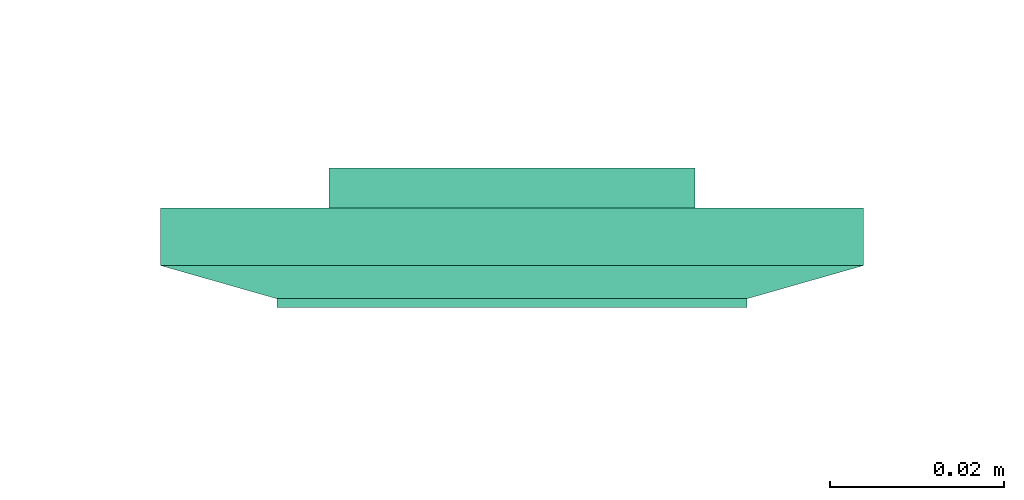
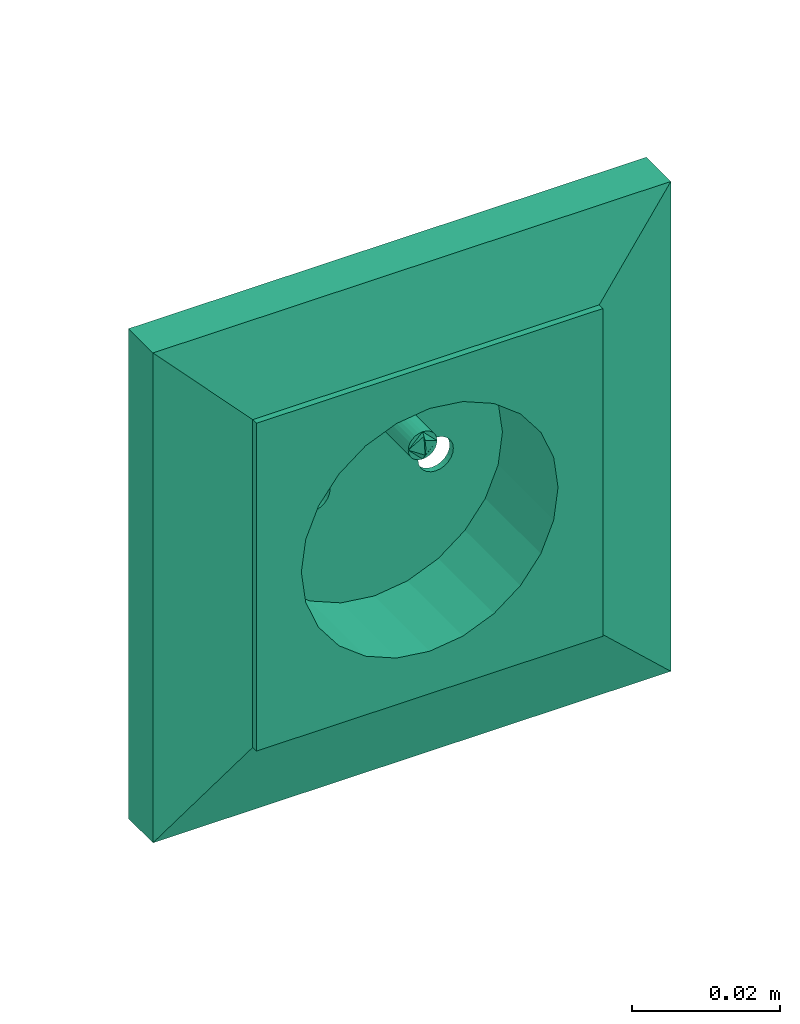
# One storey, part 137 of 146: 1 flow terminal.
"""IFC2X3 building model written with IfcOpenShell, lengths in metres."""

import ifcopenshell
import ifcopenshell.guid

model = None  # the IFC model being written
_history = None  # IfcOwnerHistory: only IFC2X3 demands one
_inside = {}  # id of a spatial element -> (the spatial element, [elements in it])
_under = {}  # id of a project, library or spatial element -> (it, [spatial elements below it])
_declared = {}  # id of a project -> (the project, [libraries it declares])
_typed = {}  # id of a type object -> (the type object, [elements of that type])
_made_of = {}  # id of a material, layer set ... -> (it, [elements and type objects made of it])


def new_model(schema):
    """Start an empty IFC model of exactly this schema.

    Asked for "IFC4X3", IfcOpenShell would pick the latest addendum, in which some entities
    have other attributes; the version numbers below select the first issue.
    IFC2X3 requires an IfcOwnerHistory on every rooted entity: one is made here for all.
    """
    global model, _history
    if schema == "IFC4X3":
        model = ifcopenshell.file(schema_version=(4, 3, 0, 0))
    else:
        model = ifcopenshell.file(schema=schema)
    _inside.clear()
    _under.clear()
    _declared.clear()
    _typed.clear()
    _made_of.clear()
    _history = None
    if model.schema == "IFC2X3":
        org = make("IfcOrganization", Name="unknown")
        user = make(
            "IfcPersonAndOrganization",
            ThePerson=make("IfcPerson", FamilyName="unknown"),
            TheOrganization=org,
        )
        app = make(
            "IfcApplication",
            ApplicationDeveloper=org,
            Version="unknown",
            ApplicationFullName="unknown",
            ApplicationIdentifier="unknown",
        )
        _history = make(
            "IfcOwnerHistory",
            OwningUser=user,
            OwningApplication=app,
            ChangeAction="ADDED",
            CreationDate=0,
        )
    return model


def make(cls, **values):
    """One entity of the class cls with the attributes given. An attribute that is None is left unset."""
    return model.create_entity(
        cls, **{name: value for name, value in values.items() if value is not None}
    )


def entity(cls, *values):
    """Any entity or typed value of the class cls, its attributes in the order of the schema. None: left unset."""
    e = model.create_entity(cls)
    for i, value in enumerate(values):
        if value is not None:
            e[i] = value
    return e


def rooted(cls, **values):
    """An entity with a GlobalId (a new one), such as an element, a storey or a relation."""
    return make(cls, GlobalId=ifcopenshell.guid.new(), OwnerHistory=_history, **values)


def si_unit(unit_type, name, prefix=None):
    """IfcSIUnit, for example si_unit("LENGTHUNIT", "METRE", prefix="MILLI")."""
    return make("IfcSIUnit", UnitType=unit_type, Prefix=prefix, Name=name)


def converted_unit(unit_type, name, factor, base, dimensions=None, offset=None):
    """IfcConversionBasedUnit, such as the inch: factor (a typed value) times the base unit."""
    return make(
        "IfcConversionBasedUnit"
        if offset is None
        else "IfcConversionBasedUnitWithOffset",
        ConversionOffset=offset,
        Dimensions=None
        if dimensions is None
        else entity("IfcDimensionalExponents", *dimensions),
        UnitType=unit_type,
        Name=name,
        ConversionFactor=make(
            "IfcMeasureWithUnit", ValueComponent=factor, UnitComponent=base
        ),
    )


def derived_unit(unit_type, elements):
    """IfcDerivedUnit: a product of units, each with its exponent."""
    return make(
        "IfcDerivedUnit",
        Elements=[
            make("IfcDerivedUnitElement", Unit=unit, Exponent=power)
            for unit, power in elements
        ],
        UnitType=unit_type,
    )


def assignment(units):
    """IfcUnitAssignment: the units of a project."""
    return None if units is None else make("IfcUnitAssignment", Units=units)


def point(xyz):
    """IfcCartesianPoint."""
    return None if xyz is None else make("IfcCartesianPoint", Coordinates=xyz)


def direction(xyz):
    """IfcDirection."""
    return None if xyz is None else make("IfcDirection", DirectionRatios=xyz)


def frame(location, z_axis=None, x_axis=None):
    """IfcAxis2Placement3D, a coordinate frame: its origin and axes. An axis left out is left unset."""
    return make(
        "IfcAxis2Placement3D",
        Location=point(location),
        Axis=direction(z_axis),
        RefDirection=direction(x_axis),
    )


def origin():
    """The frame at (0, 0, 0) with its axes left unset."""
    return frame((0.0, 0.0, 0.0))


def place(relative_to, where):
    """IfcLocalPlacement: puts the frame where relative to a parent placement (None: the world)."""
    return make(
        "IfcLocalPlacement", PlacementRelTo=relative_to, RelativePlacement=where
    )


def context(
    kind, dimensions, precision=None, world=None, true_north=None, identifier=None
):
    """IfcGeometricRepresentationContext, for example the 3D "Model" context."""
    return make(
        "IfcGeometricRepresentationContext",
        ContextIdentifier=identifier,
        ContextType=kind,
        CoordinateSpaceDimension=dimensions,
        Precision=precision,
        WorldCoordinateSystem=world,
        TrueNorth=true_north,
    )


def subcontext(parent, identifier, kind, view, scale=None):
    """IfcGeometricRepresentationSubContext, for example "Body" below "Model"."""
    return make(
        "IfcGeometricRepresentationSubContext",
        ContextIdentifier=identifier,
        ContextType=kind,
        ParentContext=parent,
        TargetScale=scale,
        TargetView=view,
    )


def project(units=None, contexts=None):
    """IfcProject with its units and contexts."""
    return rooted(
        "IfcProject",
        Name="project",
        RepresentationContexts=contexts,
        UnitsInContext=assignment(units),
    )


def spatial(cls, under=None, at=None, **own):
    """A site, building, storey or space (cls), placed at a placement, below another one or the project."""
    s = rooted(cls, ObjectPlacement=at, **own)
    if under is not None:
        _under.setdefault(under.id(), (under, []))[1].append(s)
    return s


def faces_of(points, faces, orient=None, outer=None):
    """IfcFace entities. A face is a list of loops; a loop is a list of indices into points, from 0.

    orient and outer hold one flag for each loop. By default every Orientation is true, the
    first loop of a face is its IfcFaceOuterBound and the others are IfcFaceBound.
    """
    made = []
    for i, loops in enumerate(faces):
        bounds = []
        for j, loop in enumerate(loops):
            is_outer = j == 0 if outer is None else outer[i][j]
            bounds.append(
                make(
                    "IfcFaceOuterBound" if is_outer else "IfcFaceBound",
                    Bound=make("IfcPolyLoop", Polygon=[points[k] for k in loop]),
                    Orientation=True if orient is None else orient[i][j],
                )
            )
        made.append(make("IfcFace", Bounds=bounds))
    return made


def face_set(faces, orient=None, outer=None):
    """The faces of one IfcConnectedFaceSet. surface_model builds it on its shared points."""
    return ("IfcConnectedFaceSet", faces, orient, outer)


def surface_model(cls, points, shells):
    """IfcFaceBasedSurfaceModel or IfcShellBasedSurfaceModel (cls): surfaces that need not close."""
    shared = [point(p) for p in points]
    made = [make(c, CfsFaces=faces_of(shared, fs, o, b)) for c, fs, o, b in shells]
    if cls == "IfcFaceBasedSurfaceModel":
        return make(cls, FbsmFaces=made)
    return make(cls, SbsmBoundary=made)


def shape(context_of_items, identifier, shape_type, items):
    """IfcShapeRepresentation: the items that make up one representation, for example the "Body"."""
    return make(
        "IfcShapeRepresentation",
        ContextOfItems=context_of_items,
        RepresentationIdentifier=identifier,
        RepresentationType=shape_type,
        Items=items,
    )


def source(mapping_origin, context_of_items, identifier, shape_type, items):
    """IfcRepresentationMap: a shape defined once, which mapped items show again and again."""
    return make(
        "IfcRepresentationMap",
        MappingOrigin=mapping_origin,
        MappedRepresentation=shape(context_of_items, identifier, shape_type, items),
    )


def transform(
    local_origin,
    x_axis=None,
    y_axis=None,
    z_axis=None,
    scale=None,
    scale2=None,
    scale3=None,
    uniform=True,
):
    """IfcCartesianTransformationOperator3D, or its non-uniform kind. x_axis, y_axis, z_axis: its Axis1, 2, 3."""
    if uniform:
        return make(
            "IfcCartesianTransformationOperator3D",
            Axis1=direction(x_axis),
            Axis2=direction(y_axis),
            LocalOrigin=point(local_origin),
            Scale=scale,
            Axis3=direction(z_axis),
        )
    return make(
        "IfcCartesianTransformationOperator3DnonUniform",
        Axis1=direction(x_axis),
        Axis2=direction(y_axis),
        LocalOrigin=point(local_origin),
        Scale=scale,
        Axis3=direction(z_axis),
        Scale2=scale2,
        Scale3=scale3,
    )


def mapped(mapping_source, mapping_target):
    """IfcMappedItem: shows the shape of a source again, moved by a transform."""
    return make(
        "IfcMappedItem", MappingSource=mapping_source, MappingTarget=mapping_target
    )


def made_of(thing, what):
    """Note that an element or type object is made of a material, layer set ...; save() writes the relation."""
    if what is not None:
        _made_of.setdefault(what.id(), (what, []))[1].append(thing)
    return thing


def type_object(cls, material=None, **own):
    """A type object (cls), such as IfcWallType, which elements share."""
    return made_of(rooted(cls, **own), material)


def type_shapes(of_type, sources):
    """Give a type object the sources (RepresentationMaps) that its elements show as mapped items."""
    of_type.RepresentationMaps = sources


def element(
    cls,
    number,
    at=None,
    inside=None,
    cuts=None,
    type_object=None,
    material=None,
    context=None,
    identifier="Body",
    shape_type=None,
    held_by="IfcProductDefinitionShape",
    body=None,
    shapes=None,
    **own,
):
    """One element of the class cls, such as IfcWall. Its Tag is "e" and its number.

    at: its placement. inside: the storey or other place that contains it. cuts: it is an
    opening in that element (IfcRelVoidsElement). A single representation is given by context,
    identifier, shape_type and body (its items); several are given by shapes. held_by: the class
    of the entity that holds the representations. save() writes the other relations.
    """
    e = rooted(cls, Tag="e%d" % number, ObjectPlacement=at, **own)
    if body is not None:
        shapes = [shape(context, identifier, shape_type, body)]
    if shapes is not None:
        e.Representation = make(held_by, Representations=shapes)
    if inside is not None:
        _inside.setdefault(inside.id(), (inside, []))[1].append(e)
    if cuts is not None:
        rooted(
            "IfcRelVoidsElement", RelatingBuildingElement=cuts, RelatedOpeningElement=e
        )
    if type_object is not None:
        _typed.setdefault(type_object.id(), (type_object, []))[1].append(e)
    return made_of(e, material)


def aggregate(whole, parts):
    """IfcRelAggregates: a whole, such as a stair, and the parts it consists of."""
    return rooted("IfcRelAggregates", RelatingObject=whole, RelatedObjects=parts)


def save(model, path):
    """Write the relations noted so far, then the file.

    IfcRelAggregates (storeys below a building ...), IfcRelContainedInSpatialStructure (elements
    in a storey), IfcRelDefinesByType, IfcRelAssociatesMaterial and IfcRelDeclares: one each for
    every whole, place, type object, material and project.
    """
    for whole, parts in _under.values():
        aggregate(whole, parts)
    for where, things in _inside.values():
        rooted(
            "IfcRelContainedInSpatialStructure",
            RelatedElements=things,
            RelatingStructure=where,
        )
    for kind, things in _typed.values():
        rooted("IfcRelDefinesByType", RelatedObjects=things, RelatingType=kind)
    for what, things in _made_of.values():
        rooted("IfcRelAssociatesMaterial", RelatedObjects=things, RelatingMaterial=what)
    for by, libraries in _declared.values():
        rooted("IfcRelDeclares", RelatingContext=by, RelatedDefinitions=libraries)
    model.write(path)


model = new_model("IFC2X3")

# Units and contexts
model_context = context("Model", 3, precision=1e-05, world=origin(), true_north=direction((6.12303176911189e-17, 1.0)))
body_context = subcontext(model_context, "Body", "Model", "MODEL_VIEW")
ifc_project = project(units=[si_unit("LENGTHUNIT", "METRE"), si_unit("AREAUNIT", "SQUARE_METRE"), si_unit("VOLUMEUNIT", "CUBIC_METRE"), converted_unit("PLANEANGLEUNIT", "DEGREE", entity("IfcRatioMeasure", 0.0174532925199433), si_unit("PLANEANGLEUNIT", "RADIAN"), dimensions=[0, 0, 0, 0, 0, 0, 0]), si_unit("MASSUNIT", "GRAM", prefix="KILO"), derived_unit("MASSDENSITYUNIT", [(si_unit("MASSUNIT", "GRAM", prefix="KILO"), 1), (si_unit("LENGTHUNIT", "METRE"), -3)]), si_unit("TIMEUNIT", "SECOND"), si_unit("FREQUENCYUNIT", "HERTZ"), si_unit("THERMODYNAMICTEMPERATUREUNIT", "DEGREE_CELSIUS"), derived_unit("THERMALTRANSMITTANCEUNIT", [(si_unit("MASSUNIT", "GRAM", prefix="KILO"), 1), (si_unit("THERMODYNAMICTEMPERATUREUNIT", "KELVIN"), -1), (si_unit("TIMEUNIT", "SECOND"), -3)]), derived_unit("VOLUMETRICFLOWRATEUNIT", [(si_unit("LENGTHUNIT", "METRE"), 3), (si_unit("TIMEUNIT", "SECOND"), -1)]), si_unit("ELECTRICCURRENTUNIT", "AMPERE"), si_unit("ELECTRICVOLTAGEUNIT", "VOLT"), si_unit("POWERUNIT", "WATT"), si_unit("FORCEUNIT", "NEWTON"), si_unit("ILLUMINANCEUNIT", "LUX"), si_unit("LUMINOUSFLUXUNIT", "LUMEN"), si_unit("LUMINOUSINTENSITYUNIT", "CANDELA"), derived_unit("USERDEFINED", [(si_unit("MASSUNIT", "GRAM", prefix="KILO"), -1), (si_unit("LENGTHUNIT", "METRE"), -2), (si_unit("TIMEUNIT", "SECOND"), 3), (si_unit("LUMINOUSFLUXUNIT", "LUMEN"), 1)]), derived_unit("LINEARVELOCITYUNIT", [(si_unit("LENGTHUNIT", "METRE"), 1), (si_unit("TIMEUNIT", "SECOND"), -1)]), si_unit("PRESSUREUNIT", "PASCAL"), derived_unit("USERDEFINED", [(si_unit("LENGTHUNIT", "METRE"), -2), (si_unit("MASSUNIT", "GRAM", prefix="KILO"), 1), (si_unit("TIMEUNIT", "SECOND"), -2)])], contexts=[model_context])

# Site, building, storey
site_placement = place(None, origin())
site = spatial("IfcSite", under=ifc_project, at=site_placement, Name="Default", CompositionType="ELEMENT")
building_placement = place(site_placement, origin())
building = spatial("IfcBuilding", under=site, at=building_placement, CompositionType="ELEMENT")
storey_placement = place(building_placement, origin())
storey = spatial("IfcBuildingStorey", under=building, at=storey_placement, Name="S01", CompositionType="ELEMENT", Elevation=0.0)

# Flow terminal
light_fixture_type = type_object("IfcLightFixtureType", Name="IP20 ONDULEE", PredefinedType="NOTDEFINED")
shared_shape = source(origin(), body_context, "Body", "SurfaceModel", [
    surface_model("IfcFaceBasedSurfaceModel", [(-0.00225000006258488, 0.0127499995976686, 0.00949633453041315), (0.0, 0.0104999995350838, 0.00949633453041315), (0.0, 0.0115376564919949, 0.0101656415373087), (0.0, 0.0139623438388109, 0.0101656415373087), (0.0, 0.0144589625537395, 0.00984531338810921), (0.0, 0.0121178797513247, 0.0102778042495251), (0.0, 0.0133821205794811, 0.0102778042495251), (0.0, 0.0127499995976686, 0.010399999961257), (0.0, 0.0149999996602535, 0.00949633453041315), (0.00225000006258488, 0.0127499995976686, 0.00949633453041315), (0.0, 0.0110410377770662, 0.00984531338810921), (0.0, 0.0127499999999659, 0.00949633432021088), (0.00225000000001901, 0.0127499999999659, 0.00949633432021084), (0.00217333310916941, 0.0121676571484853, 0.00949633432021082), (0.00194855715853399, 0.0116249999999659, 0.00949633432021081), (0.00159099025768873, 0.0111590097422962, 0.00949633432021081), (0.001125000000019, 0.010801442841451, 0.00949633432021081), (0.00058234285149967, 0.0105766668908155, 0.00949633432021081), (0.0, 0.0104999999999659, 0.00949633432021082), (-0.000582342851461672, 0.0105766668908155, 0.00949633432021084), (-0.001124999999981, 0.010801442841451, 0.00949633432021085), (-0.00159099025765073, 0.0111590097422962, 0.00949633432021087), (-0.00194855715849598, 0.011624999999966, 0.00949633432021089), (-0.0021733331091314, 0.0121676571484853, 0.00949633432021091), (-0.00224999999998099, 0.012749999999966, 0.00949633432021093), (-0.00217333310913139, 0.0133323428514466, 0.00949633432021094), (-0.00194855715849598, 0.013874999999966, 0.00949633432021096), (-0.00159099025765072, 0.0143409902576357, 0.00949633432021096), (-0.00112499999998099, 0.0146985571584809, 0.00949633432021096), (-0.00058234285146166, 0.0149233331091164, 0.00949633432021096), (0.0, 0.0149999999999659, 0.00949633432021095), (0.000582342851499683, 0.0149233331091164, 0.00949633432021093), (0.00112500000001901, 0.0146985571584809, 0.00949633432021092), (0.00159099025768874, 0.0143409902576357, 0.00949633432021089), (0.001948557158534, 0.0138749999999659, 0.00949633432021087), (0.00217333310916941, 0.0133323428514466, 0.00949633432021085), (0.00225000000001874, 0.0127499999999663, -0.00360000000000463), (0.00217333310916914, 0.0121676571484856, -0.00360000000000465), (0.00194855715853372, 0.0116249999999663, -0.00360000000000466), (0.00159099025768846, 0.0111590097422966, -0.00360000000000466), (0.00112500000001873, 0.0108014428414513, -0.00360000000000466), (0.000582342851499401, 0.0105766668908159, -0.00360000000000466), (0.0, 0.0104999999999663, -0.00360000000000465), (-0.000582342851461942, 0.0105766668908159, -0.00360000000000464), (-0.00112499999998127, 0.0108014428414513, -0.00360000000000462), (-0.001590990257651, 0.0111590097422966, -0.0036000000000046), (-0.00194855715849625, 0.0116249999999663, -0.00360000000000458), (-0.00217333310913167, 0.0121676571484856, -0.00360000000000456), (-0.00224999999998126, 0.0127499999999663, -0.00360000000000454), (-0.00217333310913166, 0.013332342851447, -0.00360000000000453), (-0.00194855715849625, 0.0138749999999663, -0.00360000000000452), (-0.00159099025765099, 0.014340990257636, -0.00360000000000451), (-0.00112499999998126, 0.0146985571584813, -0.00360000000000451), (-0.000582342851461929, 0.0149233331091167, -0.00360000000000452), (0.0, 0.0149999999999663, -0.00360000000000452), (0.000582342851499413, 0.0149233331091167, -0.00360000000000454), (0.00112500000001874, 0.0146985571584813, -0.00360000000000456), (0.00159099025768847, 0.014340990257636, -0.00360000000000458), (0.00194855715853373, 0.0138749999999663, -0.0036000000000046), (0.00217333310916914, 0.013332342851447, -0.00360000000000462), (0.0270000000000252, 0.026999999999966, 0.0113999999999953), (-0.0269999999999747, 0.026999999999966, 0.0113999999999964), (-0.0269999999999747, -0.0270000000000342, 0.0113999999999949), (0.0270000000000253, -0.0270000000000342, 0.0113999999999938), (-0.0199999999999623, 0.0, 0.0113999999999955), (-0.0193185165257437, -0.00517638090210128, 0.0113999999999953), (-0.0173205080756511, -0.0100000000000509, 0.0113999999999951), (-0.0141421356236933, -0.0141421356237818, 0.011399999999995), (-0.00999999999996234, -0.0173205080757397, 0.0113999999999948), (-0.00517638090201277, -0.0193185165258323, 0.0113999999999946), (0.0, -0.0200000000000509, 0.0113999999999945), (0.00517638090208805, -0.0193185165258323, 0.0113999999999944), (0.0100000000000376, -0.0173205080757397, 0.0113999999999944), (0.0141421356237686, -0.0141421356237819, 0.0113999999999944), (0.0173205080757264, -0.010000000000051, 0.0113999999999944), (0.0193185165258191, -0.00517638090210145, 0.0113999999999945), (0.0200000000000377, 0.0, 0.0113999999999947), (0.0193185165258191, 0.00517638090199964, 0.0113999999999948), (0.0173205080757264, 0.0099999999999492, 0.011399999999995), (0.0141421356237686, 0.0141421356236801, 0.0113999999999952), (0.0100000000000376, 0.0173205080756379, 0.0113999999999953), (0.00517638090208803, 0.0193185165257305, 0.0113999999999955), (0.0, 0.0199999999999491, 0.0113999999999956), (-0.00517638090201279, 0.0193185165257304, 0.0113999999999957), (-0.00999999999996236, 0.0173205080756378, 0.0113999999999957), (-0.0141421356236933, 0.01414213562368, 0.0113999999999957), (-0.0173205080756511, 0.00999999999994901, 0.0113999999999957), (-0.0193185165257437, 0.00517638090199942, 0.0113999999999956), (0.0270000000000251, 0.0269999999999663, 0.00199999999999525), (0.0270000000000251, -0.0270000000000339, 0.00199999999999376), (-0.0269999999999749, -0.0270000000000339, 0.00199999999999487), (-0.0269999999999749, 0.0269999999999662, 0.00199999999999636), (0.0210000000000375, 0.0, 0.00199999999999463), (0.0202844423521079, -0.00543519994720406, 0.00199999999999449), (0.0181865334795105, -0.0105000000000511, 0.0019999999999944), (0.0148492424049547, -0.0148492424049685, 0.00199999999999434), (0.0105000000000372, -0.0181865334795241, 0.00199999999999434), (0.0054351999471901, -0.0202844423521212, 0.00199999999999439), (0.0, -0.0210000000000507, 0.00199999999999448), (-0.00543519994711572, -0.020284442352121, 0.00199999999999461), (-0.0104999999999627, -0.0181865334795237, 0.00199999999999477), (-0.0148492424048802, -0.014849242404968, 0.00199999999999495), (-0.0181865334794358, -0.0105000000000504, 0.00199999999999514), (-0.020284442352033, -0.00543519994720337, 0.00199999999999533), (-0.0209999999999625, 0.0, 0.00199999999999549), (-0.0202844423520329, 0.0054351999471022, 0.00199999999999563), (-0.0181865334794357, 0.0104999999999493, 0.00199999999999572), (-0.01484924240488, 0.0148492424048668, 0.00199999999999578), (-0.0104999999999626, 0.0181865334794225, 0.00199999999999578), (-0.00543519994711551, 0.0202844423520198, 0.00199999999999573), (0.0, 0.0209999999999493, 0.00199999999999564), (0.00543519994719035, 0.0202844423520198, 0.00199999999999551), (0.0105000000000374, 0.0181865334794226, 0.00199999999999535), (0.0148492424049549, 0.0148492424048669, 0.00199999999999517), (0.0181865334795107, 0.0104999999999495, 0.00199999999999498), (0.0202844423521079, 0.00543519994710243, 0.00199999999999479), (0.0200000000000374, 0.0, -0.00360000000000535), (0.0193185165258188, -0.00517638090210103, -0.00360000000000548), (0.0173205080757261, -0.0100000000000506, -0.00360000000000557), (0.0141421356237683, -0.0141421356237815, -0.00360000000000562), (0.0100000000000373, -0.0173205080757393, -0.00360000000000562), (0.00517638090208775, -0.0193185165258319, -0.00360000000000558), (0.0, -0.0200000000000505, -0.00360000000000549), (-0.00517638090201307, -0.0193185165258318, -0.00360000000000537), (-0.00999999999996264, -0.0173205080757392, -0.00360000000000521), (-0.0141421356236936, -0.0141421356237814, -0.00360000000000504), (-0.0173205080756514, -0.0100000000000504, -0.00360000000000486), (-0.019318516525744, -0.00517638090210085, -0.00360000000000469), (-0.0199999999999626, 0.0, -0.00360000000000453), (-0.0193185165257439, 0.00517638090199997, -0.0036000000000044), (-0.0173205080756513, 0.00999999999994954, -0.00360000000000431), (-0.0141421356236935, 0.0141421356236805, -0.00360000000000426), (-0.00999999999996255, 0.0173205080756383, -0.00360000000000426), (-0.00517638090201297, 0.0193185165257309, -0.0036000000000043), (0.0, 0.0199999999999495, -0.00360000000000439), (0.00517638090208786, 0.0193185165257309, -0.00360000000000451), (0.0100000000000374, 0.0173205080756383, -0.00360000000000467), (0.0141421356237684, 0.0141421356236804, -0.00360000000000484), (0.0173205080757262, 0.0099999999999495, -0.00360000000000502), (0.0193185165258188, 0.00517638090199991, -0.00360000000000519), (-0.0123499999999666, 0.0, -0.00360000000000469), (-0.0122562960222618, -0.000711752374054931, -0.00360000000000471), (-0.0119815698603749, -0.00137500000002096, -0.00360000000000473), (-0.0115445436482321, -0.00194454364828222, -0.00360000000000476), (-0.0109749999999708, -0.00238156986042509, -0.00360000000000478), (-0.0103117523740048, -0.00265629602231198, -0.0036000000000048), (-0.00959999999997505, -0.00275000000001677, -0.00360000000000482), (-0.0088882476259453, -0.00265629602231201, -0.00360000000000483), (-0.00822499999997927, -0.00238156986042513, -0.00360000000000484), (-0.00765545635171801, -0.00194454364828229, -0.00360000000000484), (-0.00721843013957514, -0.00137500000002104, -0.00360000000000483), (-0.00694370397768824, -0.000711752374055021, -0.00360000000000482), (-0.00684999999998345, 0.0, -0.0036000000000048), (-0.00694370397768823, 0.000711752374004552, -0.00360000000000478), (-0.00721843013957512, 0.00137499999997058, -0.00360000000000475), (-0.00765545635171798, 0.00194454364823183, -0.00360000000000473), (-0.00822499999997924, 0.00238156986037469, -0.0036000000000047), (-0.00888824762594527, 0.00265629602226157, -0.00360000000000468), (-0.00959999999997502, 0.00274999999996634, -0.00360000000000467), (-0.0103117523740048, 0.00265629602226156, -0.00360000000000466), (-0.0109749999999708, 0.00238156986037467, -0.00360000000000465), (-0.011544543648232, 0.00194454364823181, -0.00360000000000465), (-0.0119815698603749, 0.00137499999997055, -0.00360000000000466), (-0.0122562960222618, 0.000711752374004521, -0.00360000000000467), (0.00685000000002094, 0.0, -0.00360000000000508), (0.0069437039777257, -0.00071175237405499, -0.0036000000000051), (0.00721843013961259, -0.00137500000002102, -0.00360000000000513), (0.00765545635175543, -0.00194454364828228, -0.00360000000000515), (0.00822500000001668, -0.00238156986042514, -0.00360000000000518), (0.00888824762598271, -0.00265629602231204, -0.0036000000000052), (0.00960000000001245, -0.00275000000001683, -0.00360000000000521), (0.0103117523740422, -0.00265629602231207, -0.00360000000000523), (0.0109750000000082, -0.00238156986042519, -0.00360000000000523), (0.0115445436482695, -0.00194454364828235, -0.00360000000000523), (0.0119815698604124, -0.0013750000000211, -0.00360000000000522), (0.0122562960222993, -0.00071175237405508, -0.00360000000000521), (0.012350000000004, 0.0, -0.00360000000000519), (0.0122562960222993, 0.000711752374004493, -0.00360000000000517), (0.0119815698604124, 0.00137499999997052, -0.00360000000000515), (0.0115445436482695, 0.00194454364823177, -0.00360000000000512), (0.0109750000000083, 0.00238156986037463, -0.0036000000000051), (0.0103117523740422, 0.00265629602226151, -0.00360000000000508), (0.00960000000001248, 0.00274999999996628, -0.00360000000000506), (0.00888824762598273, 0.0026562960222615, -0.00360000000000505), (0.0082250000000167, 0.00238156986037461, -0.00360000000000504), (0.00765545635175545, 0.00194454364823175, -0.00360000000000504), (0.0072184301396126, 0.00137499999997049, -0.00360000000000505), (0.00694370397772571, 0.000711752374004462, -0.00360000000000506), (0.0210000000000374, 0.0, -0.00460000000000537), (0.0202844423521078, -0.00543519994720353, -0.00460000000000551), (0.0181865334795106, -0.0105000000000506, -0.0046000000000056), (0.0148492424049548, -0.0148492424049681, -0.00460000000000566), (0.0105000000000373, -0.0181865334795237, -0.00460000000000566), (0.00543519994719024, -0.0202844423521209, -0.00460000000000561), (0.0, -0.0210000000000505, -0.00460000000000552), (-0.00543519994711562, -0.0202844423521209, -0.00460000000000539), (-0.0104999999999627, -0.0181865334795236, -0.00460000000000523), (-0.0148492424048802, -0.0148492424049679, -0.00460000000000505), (-0.0181865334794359, -0.0105000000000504, -0.00460000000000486), (-0.0202844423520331, -0.00543519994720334, -0.00460000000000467), (-0.0209999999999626, 0.0, -0.00460000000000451), (-0.020284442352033, 0.00543519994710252, -0.00460000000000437), (-0.0181865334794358, 0.0104999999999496, -0.00460000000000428), (-0.0148492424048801, 0.0148492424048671, -0.00460000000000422), (-0.0104999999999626, 0.0181865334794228, -0.00460000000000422), (-0.00543519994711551, 0.02028444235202, -0.00460000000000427), (0.0, 0.0209999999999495, -0.00460000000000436), (0.00543519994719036, 0.02028444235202, -0.00460000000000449), (0.0105000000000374, 0.0181865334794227, -0.00460000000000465), (0.0148492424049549, 0.014849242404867, -0.00460000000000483), (0.0181865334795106, 0.0104999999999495, -0.00460000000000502), (0.0202844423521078, 0.00543519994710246, -0.00460000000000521), (-0.00684999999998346, 0.0, -0.0046000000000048), (-0.00694370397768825, 0.000711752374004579, -0.00460000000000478), (-0.00721843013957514, 0.00137499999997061, -0.00460000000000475), (-0.007655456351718, 0.00194454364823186, -0.00460000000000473), (-0.00822499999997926, 0.00238156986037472, -0.0046000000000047), (-0.00888824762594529, 0.0026562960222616, -0.00460000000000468), (-0.00959999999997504, 0.00274999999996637, -0.00460000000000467), (-0.0103117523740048, 0.00265629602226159, -0.00460000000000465), (-0.0109749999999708, 0.0023815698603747, -0.00460000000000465), (-0.0115445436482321, 0.00194454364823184, -0.00460000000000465), (-0.0119815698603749, 0.00137499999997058, -0.00460000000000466), (-0.0122562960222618, 0.000711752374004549, -0.00460000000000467), (-0.0123499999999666, 0.0, -0.00460000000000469), (-0.0122562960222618, -0.000711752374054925, -0.00460000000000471), (-0.0119815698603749, -0.00137500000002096, -0.00460000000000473), (-0.0115445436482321, -0.00194454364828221, -0.00460000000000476), (-0.0109749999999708, -0.00238156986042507, -0.00460000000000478), (-0.0103117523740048, -0.00265629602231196, -0.0046000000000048), (-0.00959999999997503, -0.00275000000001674, -0.00460000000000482), (-0.00888824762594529, -0.00265629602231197, -0.00460000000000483), (-0.00822499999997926, -0.00238156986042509, -0.00460000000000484), (-0.007655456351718, -0.00194454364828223, -0.00460000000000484), (-0.00721843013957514, -0.00137500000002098, -0.00460000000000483), (-0.00694370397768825, -0.000711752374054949, -0.00460000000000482), (0.012350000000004, 0.0, -0.00460000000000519), (0.0122562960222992, 0.000711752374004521, -0.00460000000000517), (0.0119815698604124, 0.00137499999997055, -0.00460000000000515), (0.0115445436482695, 0.0019445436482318, -0.00460000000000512), (0.0109750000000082, 0.00238156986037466, -0.0046000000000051), (0.0103117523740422, 0.00265629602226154, -0.00460000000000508), (0.00960000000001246, 0.00274999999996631, -0.00460000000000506), (0.00888824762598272, 0.00265629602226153, -0.00460000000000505), (0.00822500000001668, 0.00238156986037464, -0.00460000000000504), (0.00765545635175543, 0.00194454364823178, -0.00460000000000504), (0.00721843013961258, 0.00137499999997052, -0.00460000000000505), (0.00694370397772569, 0.00071175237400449, -0.00460000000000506), (0.00685000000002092, 0.0, -0.00460000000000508), (0.00694370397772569, -0.000711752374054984, -0.0046000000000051), (0.00721843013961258, -0.00137500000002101, -0.00460000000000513), (0.00765545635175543, -0.00194454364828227, -0.00460000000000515), (0.00822500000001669, -0.00238156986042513, -0.00460000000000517), (0.00888824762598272, -0.00265629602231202, -0.0046000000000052), (0.00960000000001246, -0.0027500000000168, -0.00460000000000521), (0.0103117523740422, -0.00265629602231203, -0.00460000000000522), (0.0109750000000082, -0.00238156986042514, -0.00460000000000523), (0.0115445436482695, -0.00194454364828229, -0.00460000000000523), (0.0119815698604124, -0.00137500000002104, -0.00460000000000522), (0.0122562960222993, -0.000711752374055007, -0.00460000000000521), (0.040350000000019, 0.0403499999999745, 0.00659999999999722), (0.040350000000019, -0.0403500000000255, 0.00659999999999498), (-0.0403499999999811, -0.0403500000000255, 0.00659999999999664), (-0.0403499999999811, 0.0403499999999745, 0.00659999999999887), (0.027000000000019, 0.0269999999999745, 0.00659999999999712), (-0.0269999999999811, 0.0269999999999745, 0.00659999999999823), (-0.026999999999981, -0.0270000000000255, 0.00659999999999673), (0.027000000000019, -0.0270000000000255, 0.00659999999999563), (0.027000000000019, 0.0269999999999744, 0.0103999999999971), (-0.026999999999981, 0.0269999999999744, 0.0103999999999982), (-0.026999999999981, -0.0270000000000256, 0.0103999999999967), (0.027000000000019, -0.0270000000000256, 0.0103999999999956), (0.040350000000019, 0.0403499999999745, 0.00659999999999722), (0.040350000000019, -0.0403500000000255, 0.00659999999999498), (-0.0403499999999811, -0.0403500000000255, 0.00659999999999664), (-0.0403499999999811, 0.0403499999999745, 0.00659999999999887), (-0.0269999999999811, 0.0269999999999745, 0.00659999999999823), (-0.0269999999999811, -0.0270000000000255, 0.00659999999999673), (0.0270000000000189, -0.0270000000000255, 0.00659999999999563), (0.0270000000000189, 0.0269999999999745, 0.00659999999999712), (0.0403500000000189, 0.0403499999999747, 0.0), (0.0403500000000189, -0.0403500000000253, 0.0), (-0.0403499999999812, -0.0403500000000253, 0.0), (-0.0403499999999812, 0.0403499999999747, 0.0), (0.0270000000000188, 0.0269999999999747, 0.0), (-0.0269999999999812, 0.0269999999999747, 0.0), (-0.0269999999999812, -0.0270000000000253, 0.0), (0.0270000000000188, -0.0270000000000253, 0.0)], [face_set([[[0, 1, 2]], [[3, 4, 2, 5]], [[6, 3, 5, 7]], [[2, 4, 0]], [[4, 8, 0]], [[3, 9, 8]], [[1, 9, 10]], [[2, 3, 6, 7]], [[3, 10, 9]], [[2, 10, 3]], [[11, 1, 0, 8]], [[11, 8, 9, 1]]]), face_set([[[12, 13, 14, 15, 16, 17, 18, 19, 20, 21, 22, 23, 24, 25, 26, 27, 28, 29, 30, 31, 32, 33, 34, 35]], [[36, 37, 38, 39, 40, 41, 42, 43, 44, 45, 46, 47, 48, 49, 50, 51, 52, 53, 54, 55, 56, 57, 58, 59]], [[48, 47, 23, 24]], [[47, 46, 22, 23]], [[45, 44, 20, 21]], [[46, 45, 21, 22]], [[44, 43, 19, 20]], [[18, 19, 43, 42]], [[42, 41, 17, 18]], [[41, 40, 16, 17]], [[39, 38, 14, 15]], [[40, 39, 15, 16]], [[38, 37, 13, 14]], [[12, 13, 37, 36]], [[36, 59, 35, 12]], [[59, 58, 34, 35]], [[57, 56, 32, 33]], [[58, 57, 33, 34]], [[56, 55, 31, 32]], [[30, 31, 55, 54]], [[54, 53, 29, 30]], [[53, 52, 28, 29]], [[51, 50, 26, 27]], [[52, 51, 27, 28]], [[50, 49, 25, 26]], [[24, 25, 49, 48]]]), face_set([[[60, 61, 62, 63], [64, 65, 66, 67, 68, 69, 70, 71, 72, 73, 74, 75, 76, 77, 78, 79, 80, 81, 82, 83, 84, 85, 86, 87]], [[88, 89, 90, 91], [92, 93, 94, 95, 96, 97, 98, 99, 100, 101, 102, 103, 104, 105, 106, 107, 108, 109, 110, 111, 112, 113, 114, 115]], [[61, 60, 88, 91]], [[62, 61, 91, 90]], [[63, 62, 90, 89]], [[60, 63, 89, 88]], [[116, 117, 118, 119, 120, 121, 122, 123, 124, 125, 126, 127, 128, 129, 130, 131, 132, 133, 134, 135, 136, 137, 138, 139], [140, 141, 142, 143, 144, 145, 146, 147, 148, 149, 150, 151, 152, 153, 154, 155, 156, 157, 158, 159, 160, 161, 162, 163], [164, 165, 166, 167, 168, 169, 170, 171, 172, 173, 174, 175, 176, 177, 178, 179, 180, 181, 182, 183, 184, 185, 186, 187]], [[64, 128, 127, 65]], [[65, 127, 126, 66]], [[67, 125, 124, 68]], [[66, 126, 125, 67]], [[68, 124, 123, 69]], [[122, 70, 69, 123]], [[70, 122, 121, 71]], [[71, 121, 120, 72]], [[73, 119, 118, 74]], [[72, 120, 119, 73]], [[74, 118, 117, 75]], [[116, 76, 75, 117]], [[76, 116, 139, 77]], [[77, 139, 138, 78]], [[79, 137, 136, 80]], [[78, 138, 137, 79]], [[80, 136, 135, 81]], [[134, 82, 81, 135]], [[82, 134, 133, 83]], [[83, 133, 132, 84]], [[84, 132, 131, 85]], [[85, 131, 130, 86]], [[130, 129, 87, 86]], [[64, 87, 129, 128]], [[188, 189, 190, 191, 192, 193, 194, 195, 196, 197, 198, 199, 200, 201, 202, 203, 204, 205, 206, 207, 208, 209, 210, 211], [212, 213, 214, 215, 216, 217, 218, 219, 220, 221, 222, 223, 224, 225, 226, 227, 228, 229, 230, 231, 232, 233, 234, 235], [236, 237, 238, 239, 240, 241, 242, 243, 244, 245, 246, 247, 248, 249, 250, 251, 252, 253, 254, 255, 256, 257, 258, 259]], [[200, 199, 103, 104]], [[199, 198, 102, 103]], [[197, 196, 100, 101]], [[198, 197, 101, 102]], [[196, 195, 99, 100]], [[98, 99, 195, 194]], [[194, 193, 97, 98]], [[193, 192, 96, 97]], [[191, 190, 94, 95]], [[192, 191, 95, 96]], [[190, 189, 93, 94]], [[92, 93, 189, 188]], [[188, 211, 115, 92]], [[211, 210, 114, 115]], [[209, 208, 112, 113]], [[210, 209, 113, 114]], [[208, 207, 111, 112]], [[110, 111, 207, 206]], [[206, 205, 109, 110]], [[205, 204, 108, 109]], [[203, 202, 106, 107]], [[204, 203, 107, 108]], [[202, 201, 105, 106]], [[104, 105, 201, 200]], [[141, 225, 226, 142]], [[140, 224, 225, 141]], [[144, 228, 229, 145]], [[143, 227, 228, 144]], [[142, 226, 227, 143]], [[230, 146, 145, 229]], [[149, 233, 232, 148]], [[148, 232, 231, 147]], [[152, 212, 235, 151]], [[151, 235, 234, 150]], [[150, 234, 233, 149]], [[146, 230, 231, 147]], [[154, 214, 213, 153]], [[153, 213, 212, 152]], [[157, 217, 216, 156]], [[156, 216, 215, 155]], [[155, 215, 214, 154]], [[218, 158, 157, 217]], [[160, 220, 221, 161]], [[159, 219, 220, 160]], [[163, 223, 224, 140]], [[162, 222, 223, 163]], [[161, 221, 222, 162]], [[158, 218, 219, 159]], [[166, 250, 249, 165]], [[165, 249, 248, 164]], [[169, 253, 252, 168]], [[168, 252, 251, 167]], [[167, 251, 250, 166]], [[254, 170, 169, 253]], [[172, 256, 257, 173]], [[171, 255, 256, 172]], [[175, 259, 236, 176]], [[174, 258, 259, 175]], [[173, 257, 258, 174]], [[170, 254, 255, 171]], [[177, 237, 238, 178]], [[176, 236, 237, 177]], [[180, 240, 241, 181]], [[179, 239, 240, 180]], [[178, 238, 239, 179]], [[242, 182, 181, 241]], [[185, 245, 244, 184]], [[184, 244, 243, 183]], [[164, 248, 247, 187]], [[187, 247, 246, 186]], [[186, 246, 245, 185]], [[182, 242, 243, 183]]]), face_set([[[260, 261, 262, 263], [264, 265, 266, 267]], [[260, 268, 269, 263]], [[263, 269, 270, 262]], [[262, 270, 271, 261]], [[261, 271, 268, 260]], [[264, 265, 269, 268]], [[265, 266, 270, 269]], [[266, 267, 271, 270]], [[268, 271, 267, 264]]]), face_set([[[272, 273, 274, 275], [276, 277, 278, 279]], [[280, 281, 282, 283], [284, 285, 286, 287]], [[275, 272, 280, 283]], [[274, 275, 283, 282]], [[273, 274, 282, 281]], [[272, 273, 281, 280]], [[284, 285, 276, 279]], [[285, 286, 277, 276]], [[286, 287, 278, 277]], [[279, 278, 287, 284]]])]),
])
type_shapes(light_fixture_type, [shared_shape])
flow_terminal_placement = place(storey_placement, frame((66.2449518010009, -185.264069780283, 0.320000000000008), z_axis=(0.0, -1.0, 0.0), x_axis=(1.0, 0.0, 0.0)))
element("IfcFlowTerminal", 1, at=flow_terminal_placement, inside=storey, type_object=light_fixture_type, Name="INT Prise de courant:IP20 ONDULEE", ObjectType="INT Prise de courant:IP20 ONDULEE", context=body_context, shape_type="MappedRepresentation", body=[
    mapped(shared_shape, transform((0.0, 0.0, 0.0), scale=1.0)),
])

save(model, "model.ifc")
